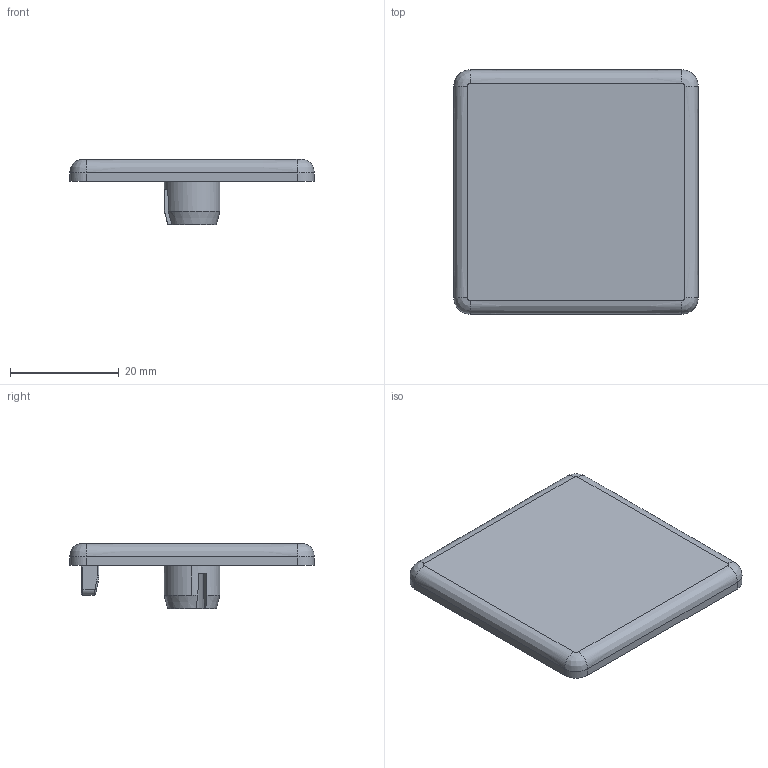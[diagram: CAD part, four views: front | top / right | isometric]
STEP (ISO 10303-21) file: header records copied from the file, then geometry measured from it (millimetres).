
FILE_DESCRIPTION (( 'STEP AP203' ), '1' );
FILE_NAME ('084.201.038.STEP', '2021-04-01T12:43:58', ( '' ), ( '' ), 'SwSTEP 2.0', 'SolidWorks 2018', '' );
FILE_SCHEMA (( 'CONFIG_CONTROL_DESIGN' ));
Length unit declared in the file: millimetre
Products named in the file (1): 084.201.038
Bounding box: 45 x 45 x 12 mm (x, y, z)
Volume: 6014.6 mm3; surface area: 5419 mm2
Topology: 1 solids, 1 shells, 301 faces, 798 edges, 513 vertices
Faces by surface type: plane 207, cylinder 38, cone 20, torus 18, bspline 16, sphere 2
Entity records: 9898 total; most frequent: CARTESIAN_POINT 2443, ORIENTED_EDGE 1592, DIRECTION 1447, EDGE_CURVE 796, VECTOR 605, LINE 605, VERTEX_POINT 513, AXIS2_PLACEMENT_3D 421
